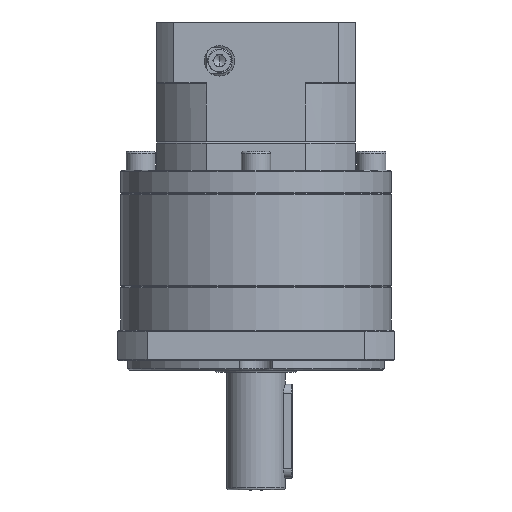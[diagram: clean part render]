
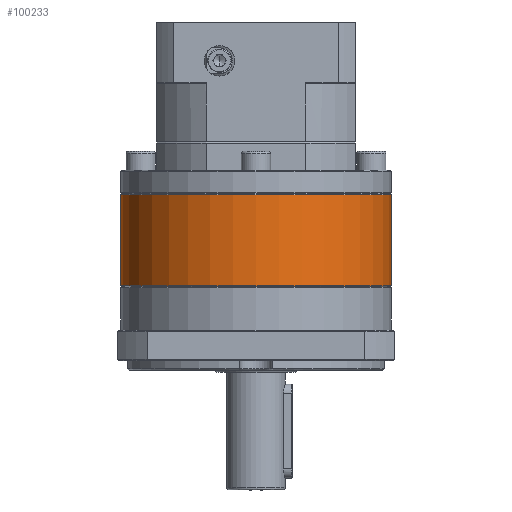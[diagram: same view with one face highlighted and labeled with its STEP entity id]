
A CAD part, front view. The second image highlights one B-rep face of the part: STEP entity #100233.
In plain terms, the highlighted cylindrical face has radius 57.5 mm (diameter 115 mm), a partial arc.
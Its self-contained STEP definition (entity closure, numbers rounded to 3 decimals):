
#10748 = EDGE_LOOP ( 'NONE', ( #127337, #59882, #104780, #127429 ) ) ;
#11688 = LINE ( 'NONE', #58165, #35188 ) ;
#15595 = CARTESIAN_POINT ( 'NONE',  ( 118.429, 23.828, -94.701 ) ) ;
#16919 = CARTESIAN_POINT ( 'NONE',  ( 118.429, 23.828, -133.912 ) ) ;
#16944 = AXIS2_PLACEMENT_3D ( 'NONE', #77841, #78727, #47961 ) ;
#20818 = CARTESIAN_POINT ( 'NONE',  ( 3.429, 23.828, -95.201 ) ) ;
#35188 = VECTOR ( 'NONE', #57718, 1000. ) ;
#45473 = LINE ( 'NONE', #15595, #61273 ) ;
#46133 = CIRCLE ( 'NONE', #48582, 57.5 ) ;
#47453 = AXIS2_PLACEMENT_3D ( 'NONE', #88869, #98998, #88360 ) ;
#47961 = DIRECTION ( 'NONE',  ( -1., 0., 0. ) ) ;
#48582 = AXIS2_PLACEMENT_3D ( 'NONE', #109733, #49579, #70214 ) ;
#49579 = DIRECTION ( 'NONE',  ( 0., 0., -1. ) ) ;
#50689 = EDGE_CURVE ( 'NONE', #99031, #123653, #45473, .T. ) ;
#57718 = DIRECTION ( 'NONE',  ( 0., 0., -1. ) ) ;
#58165 = CARTESIAN_POINT ( 'NONE',  ( 3.429, 23.828, -94.701 ) ) ;
#59882 = ORIENTED_EDGE ( 'NONE', *, *, #87007, .T. ) ;
#61273 = VECTOR ( 'NONE', #86613, 1000. ) ;
#67312 = CARTESIAN_POINT ( 'NONE',  ( 3.429, 23.828, -133.912 ) ) ;
#70214 = DIRECTION ( 'NONE',  ( -1., 0., 0. ) ) ;
#77841 = CARTESIAN_POINT ( 'NONE',  ( 60.929, 23.828, -133.912 ) ) ;
#78727 = DIRECTION ( 'NONE',  ( 0., 0., 1. ) ) ;
#81083 = VERTEX_POINT ( 'NONE', #67312 ) ;
#82600 = EDGE_CURVE ( 'NONE', #81083, #123653, #91634, .T. ) ;
#82844 = CARTESIAN_POINT ( 'NONE',  ( 118.429, 23.828, -95.201 ) ) ;
#86613 = DIRECTION ( 'NONE',  ( 0., 0., -1. ) ) ;
#87007 = EDGE_CURVE ( 'NONE', #99031, #115606, #46133, .T. ) ;
#88360 = DIRECTION ( 'NONE',  ( -1., 0., 0. ) ) ;
#88869 = CARTESIAN_POINT ( 'NONE',  ( 60.929, 23.828, -94.701 ) ) ;
#91634 = CIRCLE ( 'NONE', #16944, 57.5 ) ;
#92214 = EDGE_CURVE ( 'NONE', #115606, #81083, #11688, .T. ) ;
#98998 = DIRECTION ( 'NONE',  ( 0., 0., -1. ) ) ;
#99031 = VERTEX_POINT ( 'NONE', #82844 ) ;
#100233 = ADVANCED_FACE ( 'NONE', ( #111445 ), #126868, .T. ) ;
#104780 = ORIENTED_EDGE ( 'NONE', *, *, #92214, .T. ) ;
#109733 = CARTESIAN_POINT ( 'NONE',  ( 60.929, 23.828, -95.201 ) ) ;
#111445 = FACE_OUTER_BOUND ( 'NONE', #10748, .T. ) ;
#115606 = VERTEX_POINT ( 'NONE', #20818 ) ;
#123653 = VERTEX_POINT ( 'NONE', #16919 ) ;
#126868 = CYLINDRICAL_SURFACE ( 'NONE', #47453, 57.5 ) ;
#127337 = ORIENTED_EDGE ( 'NONE', *, *, #50689, .F. ) ;
#127429 = ORIENTED_EDGE ( 'NONE', *, *, #82600, .T. ) ;
